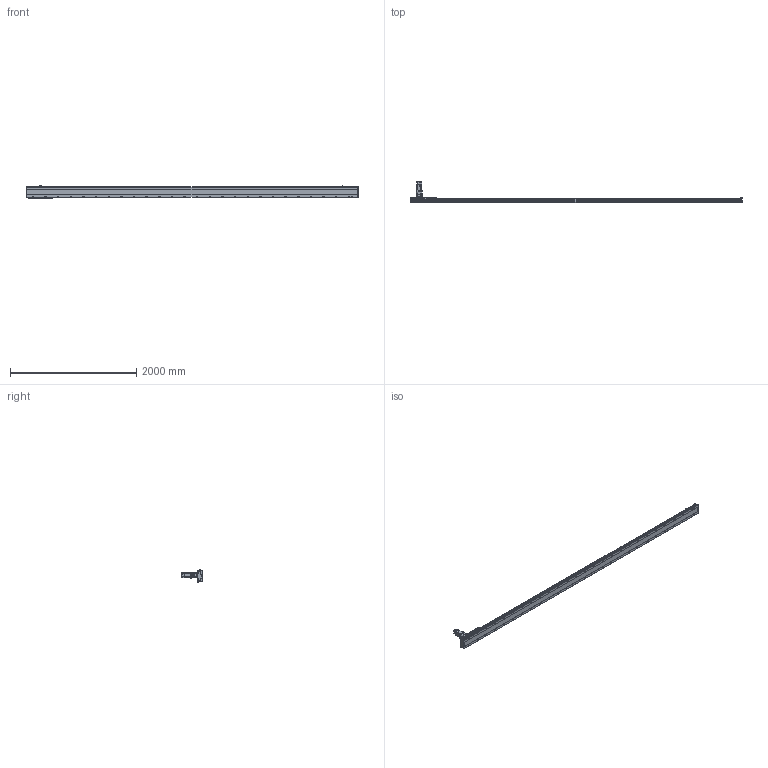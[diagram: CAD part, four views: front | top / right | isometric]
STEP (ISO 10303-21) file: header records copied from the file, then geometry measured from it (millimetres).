
FILE_DESCRIPTION(/* description */ ('STEP AP203'),/* implementation_level */ '2;1');
FILE_NAME(/* name */ 'SHS17A-L13-S4800-BC-T75-C1-N(0)',/* time_stamp */ '2023-03-27T08:59:18+02:00',/* author */ ('License CC BY-ND 4.0'),/* organization */ ('CADENAS'),/* preprocessor_version */ 'ST-DEVELOPER v19.3',/* originating_system */ 'PARTsolutions',/* authorisation */ ' ');
FILE_SCHEMA (('CONFIG_CONTROL_DESIGN'));
Length unit declared in the file: millimetre
Products named in the file (7): SHS17A-L13-S4800-BC-T75-C1-N(0); PSC140-sensor; SHS17A-S4800(0)_body2; T75-p1; SHS17A-S4800_body3; SHS17A-S4800-C1(0)_slider; SHS17A-S4800-C1(0)_body
Assembly tree (13 placements, depth 2):
  SHS17A-L13-S4800-BC-T75-C1-N(0)
    PSC140-sensor  x3
    SHS17A-S4800(0)_body2  x6
    T75-p1
    SHS17A-S4800_body3
    SHS17A-S4800-C1(0)_slider
    SHS17A-S4800-C1(0)_body
Bounding box: 5254 x 333.8 x 193.4 mm (x, y, z)
Volume: 35283965.9 mm3; surface area: 4025922.6 mm2
Topology: 13 solids, 13 shells, 2520 faces, 6446 edges, 4195 vertices
Faces by surface type: plane 1520, cylinder 889, cone 108, torus 3
Full cylindrical faces by diameter (mm): 2.8 x3, 4.134 x24, 4.5 x2, 4.6 x3, 4.917 x15, 5.5 x48, 6 x7, 6.5 x24, 6.647 x62, 6.8 x9, 8 x3, 8.5 x54, 10 x28, 11 x4, 14 x54, 22 x1, 24 x1, 24.2 x1, 28 x1, 28.2 x1, 28.8 x1, 29.8 x1, 48.542 x1, 68 x1, 70 x1, 78 x1, 80 x2
Entity records: 52626 total; most frequent: CARTESIAN_POINT 10698, DIRECTION 8473, ORIENTED_EDGE 8244, EDGE_CURVE 4122, AXIS2_PLACEMENT_3D 3048, VERTEX_POINT 2905, EDGE_LOOP 2469, FACE_BOUND 2469
